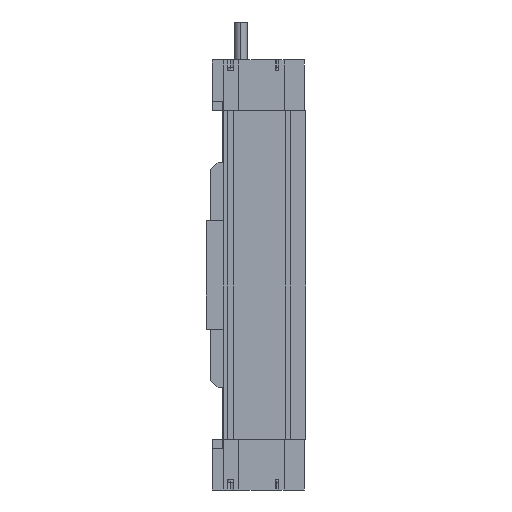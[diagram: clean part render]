
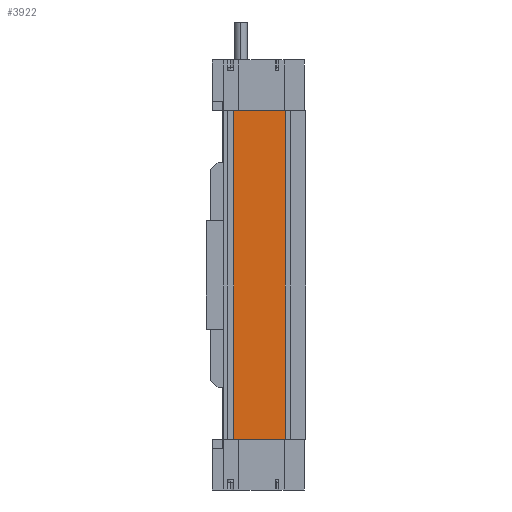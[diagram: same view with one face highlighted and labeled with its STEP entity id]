
A CAD part, left-side view. The second image highlights one B-rep face of the part: STEP entity #3922.
In plain terms, the highlighted planar face has unit normal (-1, 0, 0).
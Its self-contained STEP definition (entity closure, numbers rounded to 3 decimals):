
#726 = EDGE_CURVE ( 'NONE', #738, #746, #5057, .T. ) ;
#738 = VERTEX_POINT ( 'NONE', #5133 ) ;
#746 = VERTEX_POINT ( 'NONE', #5107 ) ;
#884 = EDGE_CURVE ( 'NONE', #918, #941, #5384, .T. ) ;
#918 = VERTEX_POINT ( 'NONE', #5404 ) ;
#941 = VERTEX_POINT ( 'NONE', #5477 ) ;
#2336 = EDGE_CURVE ( 'NONE', #746, #941, #8052, .T. ) ;
#2337 = ORIENTED_EDGE ( 'NONE', *, *, #726, .F. ) ;
#3893 = ORIENTED_EDGE ( 'NONE', *, *, #3925, .T. ) ;
#3919 = ORIENTED_EDGE ( 'NONE', *, *, #884, .T. ) ;
#3921 = EDGE_LOOP ( 'NONE', ( #3919, #3927, #2337, #3893 ) ) ;
#3922 = ADVANCED_FACE ( 'NONE', ( #10654 ), #10661, .F. ) ;
#3925 = EDGE_CURVE ( 'NONE', #738, #918, #10641, .T. ) ;
#3927 = ORIENTED_EDGE ( 'NONE', *, *, #2336, .F. ) ;
#5057 = LINE ( 'NONE', #5078, #5077 ) ;
#5076 = DIRECTION ( 'NONE',  ( 0., -1., 0. ) ) ;
#5077 = VECTOR ( 'NONE', #5076, 1000. ) ;
#5078 = CARTESIAN_POINT ( 'NONE',  ( -32.5, -16.45, 260. ) ) ;
#5107 = CARTESIAN_POINT ( 'NONE',  ( -32.5, -16.45, 260. ) ) ;
#5133 = CARTESIAN_POINT ( 'NONE',  ( -32.5, 24.15, 260. ) ) ;
#5380 = DIRECTION ( 'NONE',  ( 0., -1., 0. ) ) ;
#5381 = VECTOR ( 'NONE', #5380, 1000. ) ;
#5383 = CARTESIAN_POINT ( 'NONE',  ( -32.5, -16.45, 0. ) ) ;
#5384 = LINE ( 'NONE', #5383, #5381 ) ;
#5404 = CARTESIAN_POINT ( 'NONE',  ( -32.5, 24.15, 0. ) ) ;
#5477 = CARTESIAN_POINT ( 'NONE',  ( -32.5, -16.45, 0. ) ) ;
#8044 = DIRECTION ( 'NONE',  ( 0., 0., -1. ) ) ;
#8045 = VECTOR ( 'NONE', #8044, 1000. ) ;
#8046 = CARTESIAN_POINT ( 'NONE',  ( -32.5, -16.45, 260. ) ) ;
#8052 = LINE ( 'NONE', #8046, #8045 ) ;
#10640 = CARTESIAN_POINT ( 'NONE',  ( -32.5, 24.15, 260. ) ) ;
#10641 = LINE ( 'NONE', #10640, #10659 ) ;
#10642 = DIRECTION ( 'NONE',  ( 0., 0., -1. ) ) ;
#10643 = DIRECTION ( 'NONE',  ( 1., 0., 0. ) ) ;
#10644 = CARTESIAN_POINT ( 'NONE',  ( -32.5, -16.45, 260. ) ) ;
#10654 = FACE_OUTER_BOUND ( 'NONE', #3921, .T. ) ;
#10659 = VECTOR ( 'NONE', #10694, 1000. ) ;
#10661 = PLANE ( 'NONE',  #10663 ) ;
#10663 = AXIS2_PLACEMENT_3D ( 'NONE', #10644, #10643, #10642 ) ;
#10694 = DIRECTION ( 'NONE',  ( 0., 0., -1. ) ) ;
